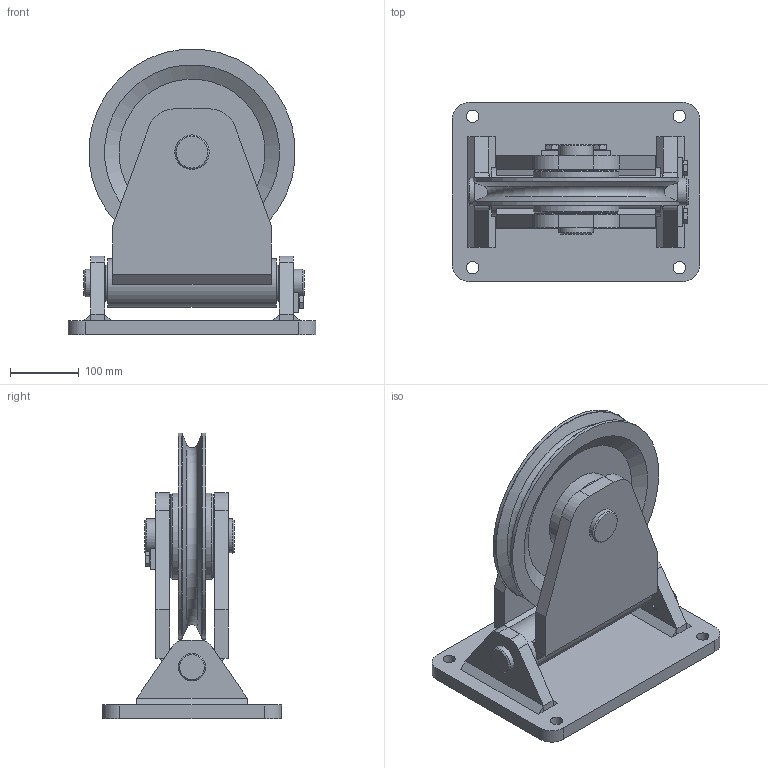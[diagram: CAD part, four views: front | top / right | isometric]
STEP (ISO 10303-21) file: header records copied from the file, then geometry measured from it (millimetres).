
FILE_DESCRIPTION(/* description */ ('Seilrolle ø300 einfach Schwenkbar SE 300 G'),/* implementation_level */ '2;1');
FILE_NAME(/* name */ 'Z:\Workspace\03 Seilrollen\1.409 Seilrollen einfach schwenkbar Gleitlager\1.409.05 Seilrolle ø300 einfach schwenkbar SE 300 G\1.409.05 Seilrolle ø300 einfach Schwenkbar SE 300 G.stp',/* time_stamp */ '2022-02-01T09:45:16+01:00',/* author */ ('cad-user'),/* organization */ (''),/* preprocessor_version */ 'ST-DEVELOPER v18',/* originating_system */ 'Autodesk Inventor 2020',/* authorisation */ '');
FILE_SCHEMA (('AUTOMOTIVE_DESIGN { 1 0 10303 214 3 1 1 }'));
Length unit declared in the file: millimetre
Products named in the file (19): 1.409.05 Seilrolle ø300 einfach Schwenkbar SE 300 G; 1.409.05.01 Konsole Schweißteil; 1.409.05.01 Konsole Schweißteil_1; 1.409.05.02 Platte 1; 1.409.05.03 Platte 2; 1.409.05.03 Platte 2_1; 1.409.05.06  Schwenkkonsole Schweißteil; 1.409.05.06  Schwenkkonsole Schweißteil_1; 1.409.05.05 Rohr; 1.409.05.04 Platte 3; 1.409.05.04 Platte 3_1; 1.409.05.07 Achse 1; 1.409.05.08 Achse 2; 1.401.08 Seilrolle ø300 Buchse komplett; 1.401.08 Seilrolle ø300 Buchse; Lagerbuchse 5030-DU; 1.409.05.09 Lasche; DIN 933 - M12  x 25; bb404640bp25
Assembly tree (24 placements, depth 3):
  1.409.05 Seilrolle ø300 einfach Schwenkbar SE 300 G
    1.409.05.01 Konsole Schweißteil
      1.409.05.01 Konsole Schweißteil_1
      1.409.05.02 Platte 1
      1.409.05.03 Platte 2
      1.409.05.03 Platte 2_1
    1.409.05.06  Schwenkkonsole Schweißteil
      1.409.05.06  Schwenkkonsole Schweißteil_1
      1.409.05.05 Rohr
      1.409.05.04 Platte 3
      1.409.05.04 Platte 3_1
    1.409.05.07 Achse 1
    1.409.05.08 Achse 2
    1.401.08 Seilrolle ø300 Buchse komplett
      1.401.08 Seilrolle ø300 Buchse
      Lagerbuchse 5030-DU  x2
    1.409.05.09 Lasche  x2
    DIN 933 - M12  x 25  x4
    bb404640bp25  x2
Bounding box: 360 x 260 x 414.48 mm (x, y, z)
Volume: 7186039.8 mm3; surface area: 1000829.4 mm2
Topology: 25 solids, 25 shells, 284 faces, 669 edges, 449 vertices
Faces by surface type: plane 156, cylinder 65, cone 58, torus 5
Full cylindrical faces by diameter (mm): 10.106 x4, 11.053 x4, 12 x4, 13 x4, 17.2 x4, 18 x4, 40 x5, 42 x1, 46 x4, 50 x3, 52 x2, 55 x1, 70 x1, 125 x2, 300 x2
Entity records: 6403 total; most frequent: DIRECTION 1093, CARTESIAN_POINT 1026, ORIENTED_EDGE 904, EDGE_CURVE 452, AXIS2_PLACEMENT_3D 422, VERTEX_POINT 307, LINE 249, VECTOR 249
